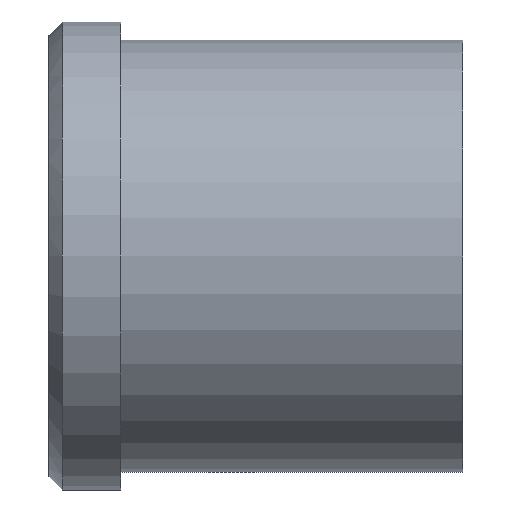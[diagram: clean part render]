
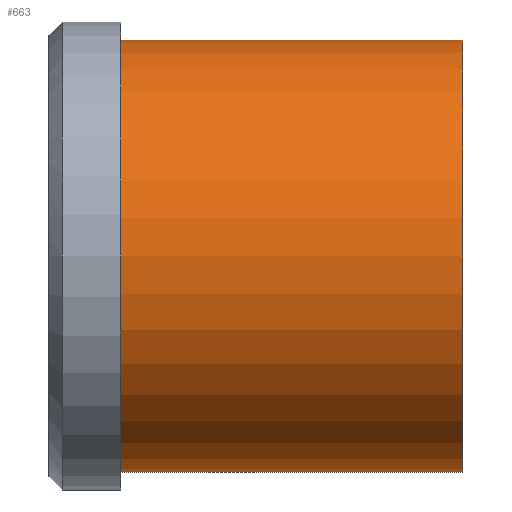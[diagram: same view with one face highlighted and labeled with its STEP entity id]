
A CAD part, front view. The second image highlights one B-rep face of the part: STEP entity #663.
In plain terms, the highlighted cylindrical face has radius 24 mm (diameter 48 mm), a partial arc.
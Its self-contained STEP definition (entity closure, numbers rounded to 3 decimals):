
#501=CARTESIAN_POINT('Vertex',(0.,0.,-24.)) ;
#506=CARTESIAN_POINT('Axis2P3D Location',(0.,0.,0.)) ;
#510=CARTESIAN_POINT('Vertex',(0.,-24.,0.)) ;
#513=CARTESIAN_POINT('Axis2P3D Location',(0.,0.,0.)) ;
#517=CARTESIAN_POINT('Vertex',(0.,0.,24.)) ;
#603=CARTESIAN_POINT('Line Origine',(38.,0.,24.)) ;
#607=CARTESIAN_POINT('Vertex',(38.,0.,24.)) ;
#621=CARTESIAN_POINT('Vertex',(38.,0.,-24.)) ;
#624=CARTESIAN_POINT('Line Origine',(38.,0.,-24.)) ;
#638=CARTESIAN_POINT('Axis2P3D Location',(38.,0.,0.)) ;
#643=CARTESIAN_POINT('Axis2P3D Location',(38.,0.,0.)) ;
#647=CARTESIAN_POINT('Vertex',(38.,-24.,0.)) ;
#650=CARTESIAN_POINT('Axis2P3D Location',(38.,0.,0.)) ;
#507=DIRECTION('Axis2P3D Direction',(1.,0.,-0.)) ;
#514=DIRECTION('Axis2P3D Direction',(1.,0.,-0.)) ;
#604=DIRECTION('Vector Direction',(-1.,0.,0.)) ;
#625=DIRECTION('Vector Direction',(-1.,0.,0.)) ;
#639=DIRECTION('Axis2P3D Direction',(-1.,-0.,-0.)) ;
#640=DIRECTION('Axis2P3D XDirection',(0.,0.,-1.)) ;
#644=DIRECTION('Axis2P3D Direction',(-1.,-0.,-0.)) ;
#651=DIRECTION('Axis2P3D Direction',(-1.,-0.,-0.)) ;
#508=AXIS2_PLACEMENT_3D('Circle Axis2P3D',#506,#507,$) ;
#515=AXIS2_PLACEMENT_3D('Circle Axis2P3D',#513,#514,$) ;
#641=AXIS2_PLACEMENT_3D('Cylinder Axis2P3D',#638,#639,#640) ;
#645=AXIS2_PLACEMENT_3D('Circle Axis2P3D',#643,#644,$) ;
#652=AXIS2_PLACEMENT_3D('Circle Axis2P3D',#650,#651,$) ;
#656=ORIENTED_EDGE('',*,*,#628,.T.) ;
#657=ORIENTED_EDGE('',*,*,#649,.F.) ;
#658=ORIENTED_EDGE('',*,*,#654,.F.) ;
#659=ORIENTED_EDGE('',*,*,#609,.T.) ;
#660=ORIENTED_EDGE('',*,*,#519,.T.) ;
#661=ORIENTED_EDGE('',*,*,#512,.T.) ;
#605=VECTOR('Line Direction',#604,1.) ;
#626=VECTOR('Line Direction',#625,1.) ;
#663=ADVANCED_FACE('353-40X46',(#662),#642,.T.) ;
#509=CIRCLE('generated circle',#508,24.) ;
#516=CIRCLE('generated circle',#515,24.) ;
#646=CIRCLE('generated circle',#645,24.) ;
#653=CIRCLE('generated circle',#652,24.) ;
#642=CYLINDRICAL_SURFACE('generated cylinder',#641,24.) ;
#512=EDGE_CURVE('',#511,#502,#509,.T.) ;
#519=EDGE_CURVE('',#518,#511,#516,.T.) ;
#609=EDGE_CURVE('',#608,#518,#606,.T.) ;
#628=EDGE_CURVE('',#502,#622,#627,.F.) ;
#649=EDGE_CURVE('',#648,#622,#646,.F.) ;
#654=EDGE_CURVE('',#608,#648,#653,.F.) ;
#655=EDGE_LOOP('',(#656,#657,#658,#659,#660,#661)) ;
#662=FACE_OUTER_BOUND('',#655,.T.) ;
#606=LINE('Line',#603,#605) ;
#627=LINE('Line',#624,#626) ;
#502=VERTEX_POINT('',#501) ;
#511=VERTEX_POINT('',#510) ;
#518=VERTEX_POINT('',#517) ;
#608=VERTEX_POINT('',#607) ;
#622=VERTEX_POINT('',#621) ;
#648=VERTEX_POINT('',#647) ;
